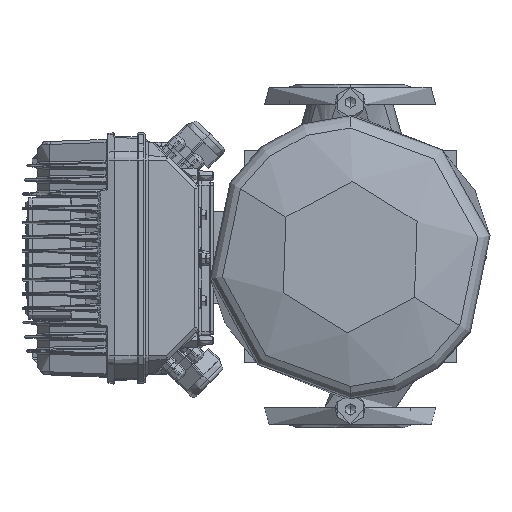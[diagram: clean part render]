
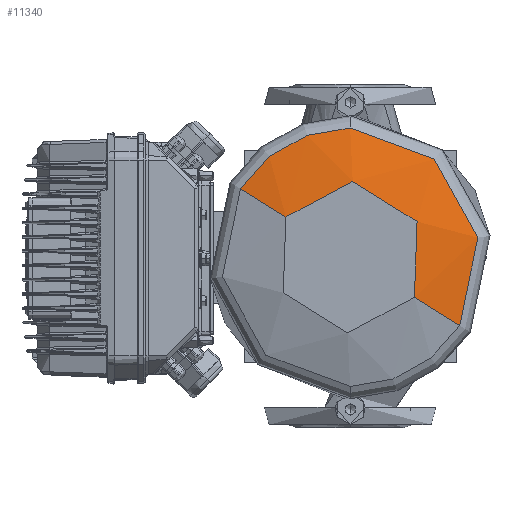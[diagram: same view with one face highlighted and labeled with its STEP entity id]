
A CAD part, top view. The second image highlights one B-rep face of the part: STEP entity #11340.
In plain terms, the highlighted conical face has half-angle 75 degrees and reference radius 101.423 mm.
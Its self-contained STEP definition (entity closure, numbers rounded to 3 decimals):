
#11340=ADVANCED_FACE('',(#27987),#27988,.T.);
#27987=FACE_OUTER_BOUND('',#57684,.T.);
#27988=CONICAL_SURFACE('',#57685,101.423,1.309);
#57684=EDGE_LOOP('',(#292813,#292814,#292815,#292816,#292817));
#57685=AXIS2_PLACEMENT_3D('',#292818,#292819,#292820);
#292813=ORIENTED_EDGE('',*,*,#340015,.F.);
#292814=ORIENTED_EDGE('',*,*,#340016,.T.);
#292815=ORIENTED_EDGE('',*,*,#340017,.T.);
#292816=ORIENTED_EDGE('',*,*,#340018,.F.);
#292817=ORIENTED_EDGE('',*,*,#340019,.F.);
#292818=CARTESIAN_POINT('',(-200.625,-226.376,190.348));
#292819=DIRECTION('',(-0.0,-0.0,-1.0));
#292820=DIRECTION('',(0.848,-0.529,0.0));
#340015=EDGE_CURVE('',#360018,#360019,#360020,.T.);
#340016=EDGE_CURVE('',#360018,#360021,#360022,.T.);
#340017=EDGE_CURVE('',#360021,#360023,#360024,.T.);
#340018=EDGE_CURVE('',#360025,#360023,#360026,.T.);
#340019=EDGE_CURVE('',#360019,#360025,#360027,.T.);
#360018=VERTEX_POINT('',#390587);
#360019=VERTEX_POINT('',#390588);
#360020=LINE('',#390589,#390590);
#360021=VERTEX_POINT('',#390591);
#360022=CIRCLE('',#390592,127.845);
#360023=VERTEX_POINT('',#390593);
#360024=CIRCLE('',#390594,127.845);
#360025=VERTEX_POINT('',#390595);
#360026=LINE('',#390596,#390597);
#360027=CIRCLE('',#390598,75.);
#390587=CARTESIAN_POINT('',(-92.16,-294.051,183.268));
#390588=CARTESIAN_POINT('',(-136.995,-266.077,197.428));
#390589=CARTESIAN_POINT('',(-114.578,-280.064,190.348));
#390590=VECTOR('',#498158,1.0);
#390591=CARTESIAN_POINT('',(-200.625,-98.531,183.268));
#390592=AXIS2_PLACEMENT_3D('',#498159,#498160,#498161);
#390593=CARTESIAN_POINT('',(-309.09,-158.701,183.268));
#390594=AXIS2_PLACEMENT_3D('',#498162,#498163,#498164);
#390595=CARTESIAN_POINT('',(-264.255,-186.675,197.428));
#390596=CARTESIAN_POINT('',(-286.672,-172.688,190.348));
#390597=VECTOR('',#498165,1.0);
#390598=AXIS2_PLACEMENT_3D('',#498166,#498167,#498168);
#498158=DIRECTION('',(-0.819,0.511,0.259));
#498159=CARTESIAN_POINT('',(-200.625,-226.376,183.268));
#498160=DIRECTION('',(0.0,0.0,1.0));
#498161=DIRECTION('',(0.848,-0.529,0.0));
#498162=CARTESIAN_POINT('',(-200.625,-226.376,183.268));
#498163=DIRECTION('',(0.0,0.0,1.0));
#498164=DIRECTION('',(0.848,-0.529,0.0));
#498165=DIRECTION('',(-0.819,0.511,-0.259));
#498166=CARTESIAN_POINT('',(-200.625,-226.376,197.428));
#498167=DIRECTION('',(0.0,0.0,1.0));
#498168=DIRECTION('',(0.848,-0.529,0.0));
